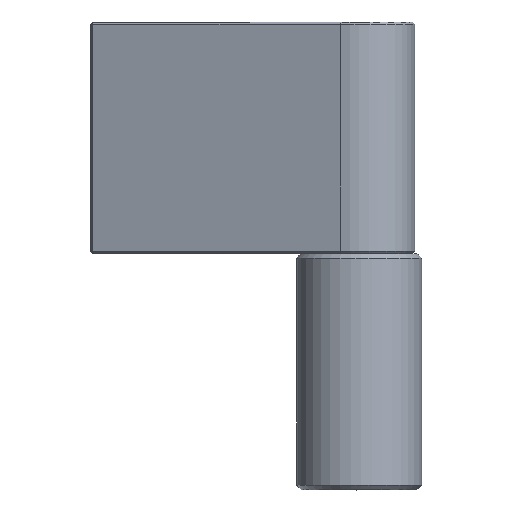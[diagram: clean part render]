
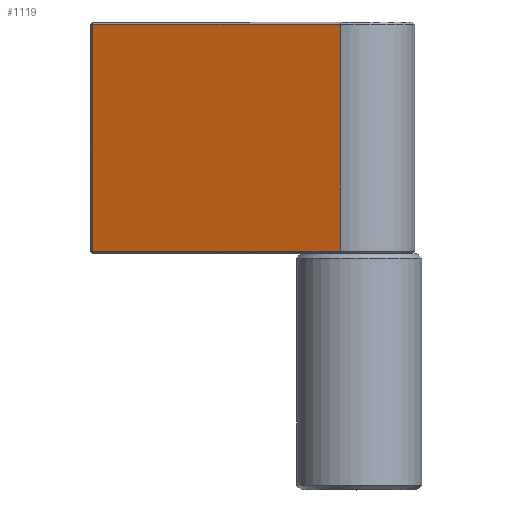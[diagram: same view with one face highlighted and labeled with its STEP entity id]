
A CAD part, top view. The second image highlights one B-rep face of the part: STEP entity #1119.
In plain terms, the highlighted planar face has unit normal (-0.337, 0, 0.942) as drawn and (-0.337, 0.942, 0) by its records, which use the part's own axes.
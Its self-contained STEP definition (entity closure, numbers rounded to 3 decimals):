
#65 = DIRECTION ( 'NONE',  ( 0., 0., 1. ) ) ;
#68 = ORIENTED_EDGE ( 'NONE', *, *, #1759, .T. ) ;
#143 = CARTESIAN_POINT ( 'NONE',  ( -57.529, -7.832, 50. ) ) ;
#272 = VERTEX_POINT ( 'NONE', #1970 ) ;
#294 = VERTEX_POINT ( 'NONE', #1249 ) ;
#321 = CARTESIAN_POINT ( 'NONE',  ( -4.041, 11.299, 0.5 ) ) ;
#369 = CARTESIAN_POINT ( 'NONE',  ( -58., -8., 0.5 ) ) ;
#459 = EDGE_CURVE ( 'NONE', #294, #1794, #1446, .T. ) ;
#559 = ORIENTED_EDGE ( 'NONE', *, *, #459, .T. ) ;
#582 = DIRECTION ( 'NONE',  ( 0., 0., -1. ) ) ;
#583 = EDGE_CURVE ( 'NONE', #272, #2364, #1237, .T. ) ;
#605 = VECTOR ( 'NONE', #2244, 1000. ) ;
#729 = VECTOR ( 'NONE', #582, 1000. ) ;
#1000 = VECTOR ( 'NONE', #2269, 1000. ) ;
#1015 = FACE_OUTER_BOUND ( 'NONE', #1044, .T. ) ;
#1044 = EDGE_LOOP ( 'NONE', ( #559, #68, #1966, #1488 ) ) ;
#1119 = ADVANCED_FACE ( 'NONE', ( #1015 ), #1540, .F. ) ;
#1135 = CARTESIAN_POINT ( 'NONE',  ( -4.041, 11.299, 50. ) ) ;
#1237 = LINE ( 'NONE', #1135, #729 ) ;
#1249 = CARTESIAN_POINT ( 'NONE',  ( -57.529, -7.832, 0.5 ) ) ;
#1348 = CARTESIAN_POINT ( 'NONE',  ( -4.041, 11.299, 49.5 ) ) ;
#1446 = LINE ( 'NONE', #143, #1880 ) ;
#1453 = LINE ( 'NONE', #369, #1000 ) ;
#1488 = ORIENTED_EDGE ( 'NONE', *, *, #2245, .T. ) ;
#1540 = PLANE ( 'NONE',  #2079 ) ;
#1617 = CARTESIAN_POINT ( 'NONE',  ( -57.529, -7.832, 49.5 ) ) ;
#1626 = CARTESIAN_POINT ( 'NONE',  ( -58., -8., 50. ) ) ;
#1759 = EDGE_CURVE ( 'NONE', #1794, #272, #2067, .T. ) ;
#1794 = VERTEX_POINT ( 'NONE', #1617 ) ;
#1821 = DIRECTION ( 'NONE',  ( 0.337, -0.942, 0. ) ) ;
#1847 = DIRECTION ( 'NONE',  ( 0.942, 0.337, 0. ) ) ;
#1880 = VECTOR ( 'NONE', #65, 1000. ) ;
#1966 = ORIENTED_EDGE ( 'NONE', *, *, #583, .T. ) ;
#1970 = CARTESIAN_POINT ( 'NONE',  ( -4.041, 11.299, 49.5 ) ) ;
#2067 = LINE ( 'NONE', #1348, #605 ) ;
#2079 = AXIS2_PLACEMENT_3D ( 'NONE', #1626, #1821, #1847 ) ;
#2244 = DIRECTION ( 'NONE',  ( 0.942, 0.337, 0. ) ) ;
#2245 = EDGE_CURVE ( 'NONE', #2364, #294, #1453, .T. ) ;
#2269 = DIRECTION ( 'NONE',  ( -0.942, -0.337, 0. ) ) ;
#2364 = VERTEX_POINT ( 'NONE', #321 ) ;
